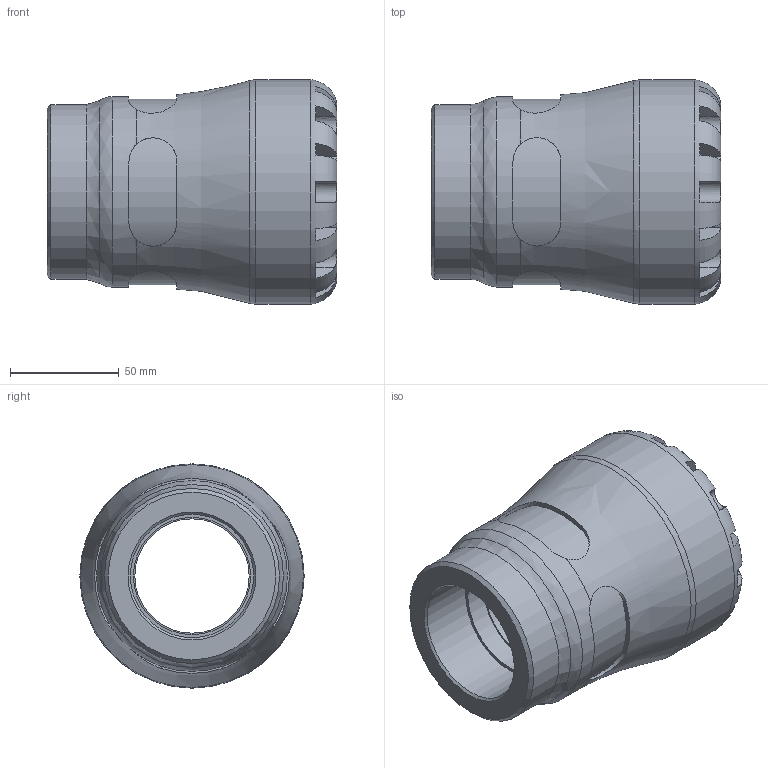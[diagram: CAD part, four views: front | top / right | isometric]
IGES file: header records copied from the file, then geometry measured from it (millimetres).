
Global section: file name: 107300063020_197300063020.ipt; native system: Autodesk Inventor 2015; preprocessor: unknown; author: KIM; date: 20170122.113640; units: millimetre
Bounding box: 133 x 103 x 103 mm (x, y, z)
Volume: 495575 mm3; surface area: 75060.5 mm2
Topology: 1 solids, 1 shells, 104 faces, 279 edges, 180 vertices
Faces by surface type: plane 61, revolution 27, cylinder 15, cone 1
Full cylindrical faces by diameter (mm): 80.34 x1, 87.55 x1, 103 x1
